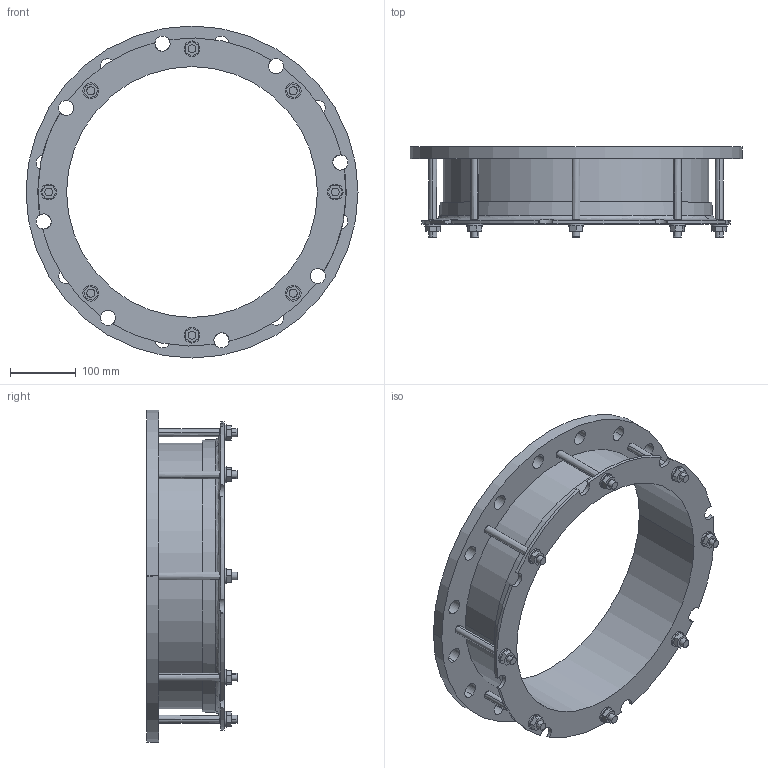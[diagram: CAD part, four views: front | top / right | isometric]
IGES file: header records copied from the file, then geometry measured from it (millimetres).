
Start section:  PTC IGES file: 378x350pn10_8not.igs
Global section: file name: 378x350pn10_8not.igs; native system: Creo Parametric by PTC Inc.; preprocessor: 2016130; author: mfairey; organization: Unknown; date: 20190116.094825; units: millimetre
Bounding box: 505 x 137.45 x 505 mm (x, y, z)
Surface area: 589122.8 mm2 (no closed solid volume)
Topology: 0 solids, 0 shells, 184 faces, 980 edges, 980 vertices
Faces by surface type: revolution 108, bspline 76
